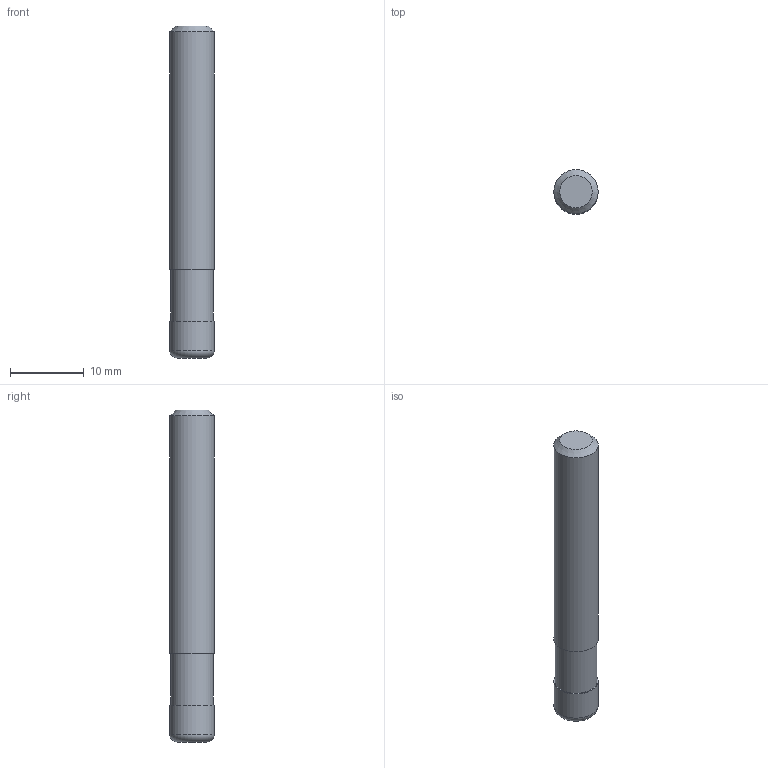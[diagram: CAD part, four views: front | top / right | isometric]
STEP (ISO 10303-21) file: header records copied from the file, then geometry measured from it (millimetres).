
FILE_DESCRIPTION((''),'2;1');
FILE_NAME('C:\Users\nsx150\AppData\Local\Temp\Mastercam 2021\8MCJJJGUOI\TEMP.step','2022-10-12T10:46:58',(''),(''),'STEP Write','Mastercam 2021 ... CNC Software, Inc.','');
FILE_SCHEMA(('AUTOMOTIVE_DESIGN'));
Length unit declared in the file: millimetre
Products named in the file (1): None
Bounding box: 6 x 6 x 45 mm (x, y, z)
Volume: 1243.8 mm3; surface area: 936.5 mm2
Topology: 2 solids, 2 shells, 10 faces, 13 edges, 8 vertices
Faces by surface type: plane 5, cylinder 3, torus 1, cone 1
Full cylindrical faces by diameter (mm): 5.7 x1, 6 x2
Entity records: 232 total; most frequent: DIRECTION 40, CARTESIAN_POINT 28, AXIS2_PLACEMENT_3D 20, ORIENTED_EDGE 16, EDGE_LOOP 16, STYLED_ITEM 13, ADVANCED_FACE 10, FACE_BOUND 10
